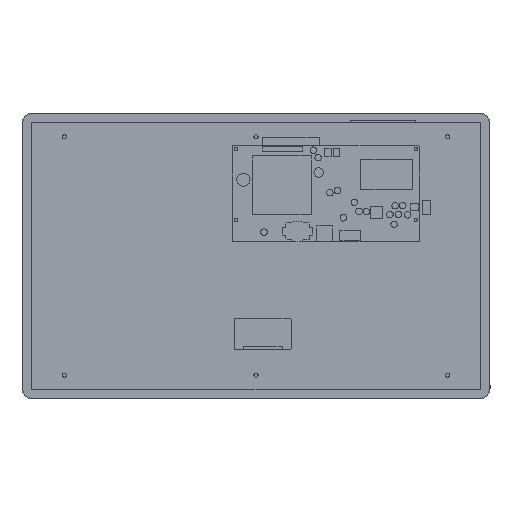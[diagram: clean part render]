
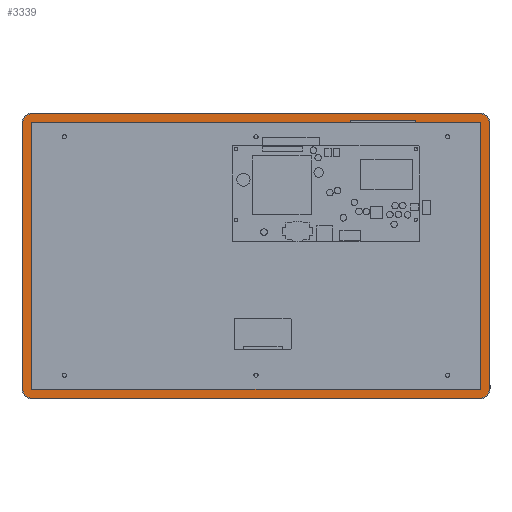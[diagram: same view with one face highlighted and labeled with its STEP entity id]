
A CAD part, front view. The second image highlights one B-rep face of the part: STEP entity #3339.
In plain terms, the highlighted planar face has unit normal (0, -1, 0).
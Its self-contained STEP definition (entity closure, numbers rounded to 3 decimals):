
#268=DIRECTION('',(0.,0.,1.));
#269=VECTOR('',#268,84.);
#270=CARTESIAN_POINT('',(-216.385,14.,-42.));
#271=LINE('',#270,#269);
#310=DIRECTION('',(0.,0.,1.));
#311=VECTOR('',#310,70.5);
#312=CARTESIAN_POINT('',(-216.385,14.,58.));
#313=LINE('',#312,#311);
#318=DIRECTION('',(0.,0.,1.));
#319=VECTOR('',#318,70.5);
#320=CARTESIAN_POINT('',(-216.385,14.,-128.5));
#321=LINE('',#320,#319);
#487=DIRECTION('',(0.,0.,-1.));
#488=VECTOR('',#487,70.5);
#489=CARTESIAN_POINT('',(216.385,14.,-58.));
#490=LINE('',#489,#488);
#495=DIRECTION('',(0.,0.,-1.));
#496=VECTOR('',#495,70.5);
#497=CARTESIAN_POINT('',(216.385,14.,128.5));
#498=LINE('',#497,#496);
#537=DIRECTION('',(0.,0.,-1.));
#538=VECTOR('',#537,84.);
#539=CARTESIAN_POINT('',(216.385,14.,42.));
#540=LINE('',#539,#538);
#882=CARTESIAN_POINT('',(215.385,14.,127.5));
#883=DIRECTION('',(0.,-1.,0.));
#884=DIRECTION('',(1.,0.,0.));
#885=AXIS2_PLACEMENT_3D('',#882,#883,#884);
#887=DIRECTION('',(0.,0.,-1.));
#888=VECTOR('',#887,255.);
#889=CARTESIAN_POINT('',(225.385,14.,127.5));
#890=LINE('',#889,#888);
#891=CARTESIAN_POINT('',(215.385,14.,-127.5));
#892=DIRECTION('',(0.,-1.,0.));
#893=DIRECTION('',(0.,0.,-1.));
#894=AXIS2_PLACEMENT_3D('',#891,#892,#893);
#896=DIRECTION('',(-1.,0.,0.));
#897=VECTOR('',#896,430.77);
#898=CARTESIAN_POINT('',(215.385,14.,-137.5));
#899=LINE('',#898,#897);
#900=CARTESIAN_POINT('',(-215.385,14.,-127.5));
#901=DIRECTION('',(0.,-1.,0.));
#902=DIRECTION('',(-1.,0.,0.));
#903=AXIS2_PLACEMENT_3D('',#900,#901,#902);
#905=DIRECTION('',(0.,0.,1.));
#906=VECTOR('',#905,255.);
#907=CARTESIAN_POINT('',(-225.385,14.,-127.5));
#908=LINE('',#907,#906);
#909=CARTESIAN_POINT('',(-215.385,14.,127.5));
#910=DIRECTION('',(0.,-1.,0.));
#911=DIRECTION('',(0.,0.,1.));
#912=AXIS2_PLACEMENT_3D('',#909,#910,#911);
#914=DIRECTION('',(1.,0.,0.));
#915=VECTOR('',#914,430.77);
#916=CARTESIAN_POINT('',(-215.385,14.,137.5));
#917=LINE('',#916,#915);
#918=DIRECTION('',(0.,0.,1.));
#919=VECTOR('',#918,2.);
#920=CARTESIAN_POINT('',(153.777,14.,128.5));
#921=LINE('',#920,#919);
#922=DIRECTION('',(-1.,0.,0.));
#923=VECTOR('',#922,62.8);
#924=CARTESIAN_POINT('',(153.777,14.,130.5));
#925=LINE('',#924,#923);
#926=DIRECTION('',(0.,0.,-1.));
#927=VECTOR('',#926,2.);
#928=CARTESIAN_POINT('',(90.977,14.,130.5));
#929=LINE('',#928,#927);
#930=DIRECTION('',(0.,0.,-1.));
#931=VECTOR('',#930,16.);
#932=CARTESIAN_POINT('',(-216.385,14.,58.));
#933=LINE('',#932,#931);
#934=DIRECTION('',(0.,0.,-1.));
#935=VECTOR('',#934,16.);
#936=CARTESIAN_POINT('',(-216.385,14.,-42.));
#937=LINE('',#936,#935);
#938=DIRECTION('',(0.,0.,1.));
#939=VECTOR('',#938,16.);
#940=CARTESIAN_POINT('',(216.385,14.,-58.));
#941=LINE('',#940,#939);
#942=DIRECTION('',(0.,0.,1.));
#943=VECTOR('',#942,16.);
#944=CARTESIAN_POINT('',(216.385,14.,42.));
#945=LINE('',#944,#943);
#1018=DIRECTION('',(1.,0.,0.));
#1019=VECTOR('',#1018,62.608);
#1020=CARTESIAN_POINT('',(153.777,14.,128.5));
#1021=LINE('',#1020,#1019);
#1026=DIRECTION('',(1.,0.,0.));
#1027=VECTOR('',#1026,307.362);
#1028=CARTESIAN_POINT('',(-216.385,14.,128.5));
#1029=LINE('',#1028,#1027);
#1678=DIRECTION('',(-1.,0.,0.));
#1679=VECTOR('',#1678,432.77);
#1680=CARTESIAN_POINT('',(216.385,14.,-128.5));
#1681=LINE('',#1680,#1679);
#1858=CARTESIAN_POINT('',(216.385,14.,-128.5));
#1859=CARTESIAN_POINT('',(-216.385,14.,-128.5));
#1860=VERTEX_POINT('',#1858);
#1861=VERTEX_POINT('',#1859);
#1862=CARTESIAN_POINT('',(-216.385,14.,128.5));
#1863=VERTEX_POINT('',#1862);
#1864=CARTESIAN_POINT('',(216.385,14.,128.5));
#1865=VERTEX_POINT('',#1864);
#1866=CARTESIAN_POINT('',(225.385,14.,127.5));
#1867=CARTESIAN_POINT('',(215.385,14.,137.5));
#1868=VERTEX_POINT('',#1866);
#1869=VERTEX_POINT('',#1867);
#1874=CARTESIAN_POINT('',(-215.385,14.,137.5));
#1875=CARTESIAN_POINT('',(-225.385,14.,127.5));
#1876=VERTEX_POINT('',#1874);
#1877=VERTEX_POINT('',#1875);
#1882=CARTESIAN_POINT('',(-225.385,14.,-127.5));
#1883=CARTESIAN_POINT('',(-215.385,14.,-137.5));
#1884=VERTEX_POINT('',#1882);
#1885=VERTEX_POINT('',#1883);
#1890=CARTESIAN_POINT('',(215.385,14.,-137.5));
#1891=CARTESIAN_POINT('',(225.385,14.,-127.5));
#1892=VERTEX_POINT('',#1890);
#1893=VERTEX_POINT('',#1891);
#2122=CARTESIAN_POINT('',(216.385,14.,42.));
#2123=CARTESIAN_POINT('',(216.385,14.,58.));
#2124=VERTEX_POINT('',#2122);
#2125=VERTEX_POINT('',#2123);
#2126=CARTESIAN_POINT('',(-216.385,14.,58.));
#2127=CARTESIAN_POINT('',(-216.385,14.,42.));
#2128=VERTEX_POINT('',#2126);
#2129=VERTEX_POINT('',#2127);
#2130=CARTESIAN_POINT('',(216.385,14.,-58.));
#2131=CARTESIAN_POINT('',(216.385,14.,-42.));
#2132=VERTEX_POINT('',#2130);
#2133=VERTEX_POINT('',#2131);
#2134=CARTESIAN_POINT('',(-216.385,14.,-42.));
#2135=CARTESIAN_POINT('',(-216.385,14.,-58.));
#2136=VERTEX_POINT('',#2134);
#2137=VERTEX_POINT('',#2135);
#2214=CARTESIAN_POINT('',(153.777,14.,128.5));
#2215=VERTEX_POINT('',#2214);
#2216=CARTESIAN_POINT('',(90.977,14.,128.5));
#2217=VERTEX_POINT('',#2216);
#2222=CARTESIAN_POINT('',(153.777,14.,130.5));
#2223=VERTEX_POINT('',#2222);
#2224=CARTESIAN_POINT('',(90.977,14.,130.5));
#2225=VERTEX_POINT('',#2224);
#3289=CARTESIAN_POINT('',(0.,14.,0.));
#3290=DIRECTION('',(0.,1.,0.));
#3291=DIRECTION('',(1.,0.,0.));
#3292=AXIS2_PLACEMENT_3D('',#3289,#3290,#3291);
#3293=PLANE('',#3292);
#3294=ORIENTED_EDGE('',*,*,#3279,.F.);
#3296=ORIENTED_EDGE('',*,*,#3295,.T.);
#3298=ORIENTED_EDGE('',*,*,#3297,.F.);
#3300=ORIENTED_EDGE('',*,*,#3299,.T.);
#3302=ORIENTED_EDGE('',*,*,#3301,.F.);
#3304=ORIENTED_EDGE('',*,*,#3303,.T.);
#3306=ORIENTED_EDGE('',*,*,#3305,.F.);
#3308=ORIENTED_EDGE('',*,*,#3307,.T.);
#3309=EDGE_LOOP('',(#3294,#3296,#3298,#3300,#3302,#3304,#3306,#3308));
#3310=FACE_OUTER_BOUND('',#3309,.F.);
#3312=ORIENTED_EDGE('',*,*,#3311,.T.);
#3314=ORIENTED_EDGE('',*,*,#3313,.T.);
#3316=ORIENTED_EDGE('',*,*,#3315,.T.);
#3318=ORIENTED_EDGE('',*,*,#3317,.F.);
#3319=ORIENTED_EDGE('',*,*,#2601,.F.);
#3321=ORIENTED_EDGE('',*,*,#3320,.T.);
#3322=ORIENTED_EDGE('',*,*,#2581,.F.);
#3324=ORIENTED_EDGE('',*,*,#3323,.T.);
#3325=ORIENTED_EDGE('',*,*,#2608,.F.);
#3327=ORIENTED_EDGE('',*,*,#3326,.F.);
#3328=ORIENTED_EDGE('',*,*,#2824,.F.);
#3330=ORIENTED_EDGE('',*,*,#3329,.T.);
#3331=ORIENTED_EDGE('',*,*,#2851,.F.);
#3333=ORIENTED_EDGE('',*,*,#3332,.T.);
#3334=ORIENTED_EDGE('',*,*,#2831,.F.);
#3336=ORIENTED_EDGE('',*,*,#3335,.F.);
#3337=EDGE_LOOP('',(#3312,#3314,#3316,#3318,#3319,#3321,#3322,#3324,#3325,#3327,
#3328,#3330,#3331,#3333,#3334,#3336));
#3338=FACE_BOUND('',#3337,.F.);
#886=CIRCLE('',#885,10.);
#895=CIRCLE('',#894,10.);
#904=CIRCLE('',#903,10.);
#913=CIRCLE('',#912,10.);
#2581=EDGE_CURVE('',#2136,#2129,#271,.T.);
#2601=EDGE_CURVE('',#2128,#1863,#313,.T.);
#2608=EDGE_CURVE('',#1861,#2137,#321,.T.);
#2824=EDGE_CURVE('',#2132,#1860,#490,.T.);
#2831=EDGE_CURVE('',#1865,#2125,#498,.T.);
#2851=EDGE_CURVE('',#2124,#2133,#540,.T.);
#3279=EDGE_CURVE('',#1868,#1869,#886,.T.);
#3295=EDGE_CURVE('',#1868,#1893,#890,.T.);
#3297=EDGE_CURVE('',#1892,#1893,#895,.T.);
#3299=EDGE_CURVE('',#1892,#1885,#899,.T.);
#3301=EDGE_CURVE('',#1884,#1885,#904,.T.);
#3303=EDGE_CURVE('',#1884,#1877,#908,.T.);
#3305=EDGE_CURVE('',#1876,#1877,#913,.T.);
#3307=EDGE_CURVE('',#1876,#1869,#917,.T.);
#3311=EDGE_CURVE('',#2215,#2223,#921,.T.);
#3313=EDGE_CURVE('',#2223,#2225,#925,.T.);
#3315=EDGE_CURVE('',#2225,#2217,#929,.T.);
#3317=EDGE_CURVE('',#1863,#2217,#1029,.T.);
#3320=EDGE_CURVE('',#2128,#2129,#933,.T.);
#3323=EDGE_CURVE('',#2136,#2137,#937,.T.);
#3326=EDGE_CURVE('',#1860,#1861,#1681,.T.);
#3329=EDGE_CURVE('',#2132,#2133,#941,.T.);
#3332=EDGE_CURVE('',#2124,#2125,#945,.T.);
#3335=EDGE_CURVE('',#2215,#1865,#1021,.T.);
#3339=ADVANCED_FACE('',(#3310,#3338),#3293,.F.);
